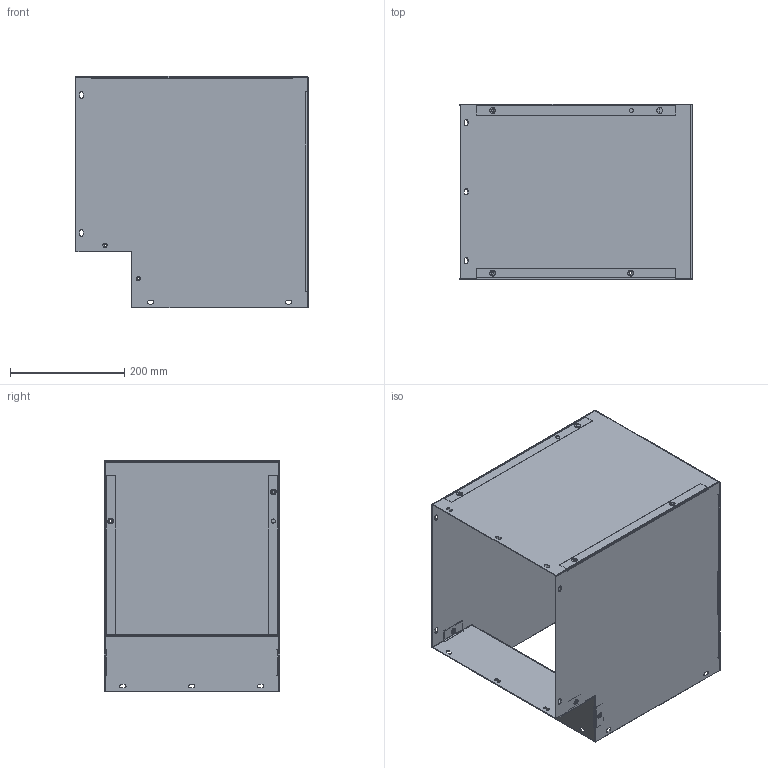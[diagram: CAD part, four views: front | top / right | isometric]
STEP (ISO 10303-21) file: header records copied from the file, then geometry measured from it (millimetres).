
FILE_DESCRIPTION (( 'STEP AP203' ), '1' );
FILE_NAME ('f121290eout.STEP', '2011-10-19T12:55:33', ( 'Hoffman User' ), ( 'Hoffman Enclosures' ), 'SwSTEP 2.0', 'SolidWorks 2010', '' );
FILE_SCHEMA (( 'CONFIG_CONTROL_DESIGN' ));
Length unit declared in the file: inch
Products named in the file (4): f121290eout; Inside_12x12; Outside_12x12; Bot_Top_12x12
Assembly tree (4 placements, depth 2):
  f121290eout
    Inside_12x12
    Bot_Top_12x12  x2
    Outside_12x12
Bounding box: 405.97 x 306.65 x 404.57 mm (x, y, z)
Volume: 894379.6 mm3; surface area: 1291520.5 mm2
Topology: 4 solids, 4 shells, 391 faces, 1001 edges, 630 vertices
Faces by surface type: plane 204, cylinder 139, torus 48
Entity records: 9471 total; most frequent: DIRECTION 1639, CARTESIAN_POINT 1527, ORIENTED_EDGE 1506, EDGE_CURVE 753, AXIS2_PLACEMENT_3D 586, VERTEX_POINT 474, VECTOR 467, LINE 467
